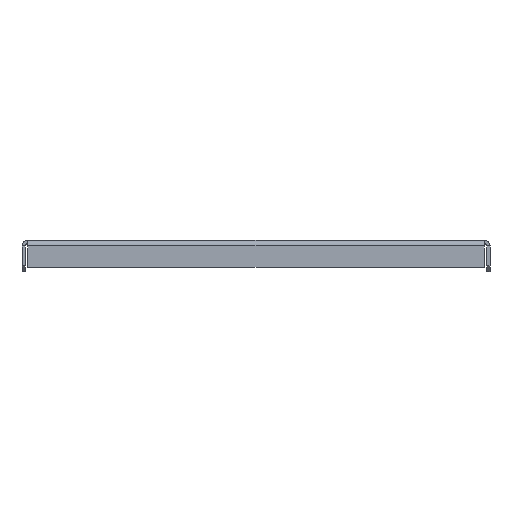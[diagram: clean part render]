
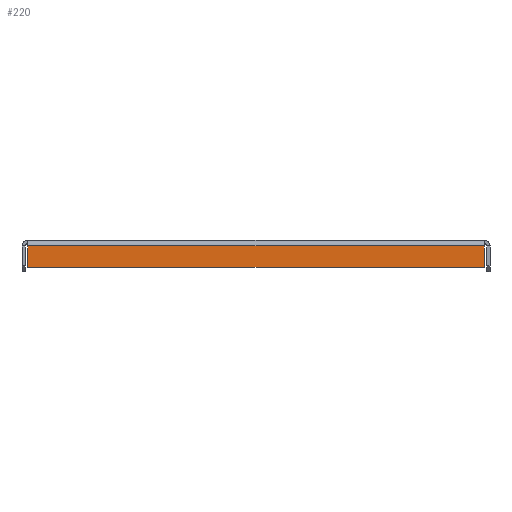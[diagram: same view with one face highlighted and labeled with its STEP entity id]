
A CAD part, front view. The second image highlights one B-rep face of the part: STEP entity #220.
In plain terms, the highlighted planar face has unit normal (0, -1, 0).
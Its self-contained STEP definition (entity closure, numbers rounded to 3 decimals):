
#220=ADVANCED_FACE('',(#2476),#2478,.T.);
#2476=FACE_BOUND('',#2477,.T.);
#2477=EDGE_LOOP('',(#4461,#4462,#4463,#4464));
#2478=PLANE('',#2479);
#2479=AXIS2_PLACEMENT_3D('',#2480,#2481,#2482);
#2480=CARTESIAN_POINT('',(0.,-98.5,0.));
#2481=DIRECTION('',(0.,-1.,0.));
#2482=DIRECTION('',(0.,0.,-1.));
#4461=ORIENTED_EDGE('',*,*,#5667,.F.);
#4462=ORIENTED_EDGE('',*,*,#5661,.T.);
#4463=ORIENTED_EDGE('',*,*,#5663,.F.);
#4464=ORIENTED_EDGE('',*,*,#5669,.F.);
#5661=EDGE_CURVE('',#6956,#6963,#6967,.T.);
#5663=EDGE_CURVE('',#6969,#6963,#6970,.T.);
#5667=EDGE_CURVE('',#6956,#6976,#6977,.T.);
#5669=EDGE_CURVE('',#6976,#6969,#6979,.T.);
#6956=VERTEX_POINT('',#9710);
#6963=VERTEX_POINT('',#9730);
#6967=LINE('',#9741,#9742);
#6969=VERTEX_POINT('',#9747);
#6970=LINE('',#9748,#9749);
#6976=VERTEX_POINT('',#9762);
#6977=LINE('',#9763,#9764);
#6979=LINE('',#9769,#9770);
#9710=CARTESIAN_POINT('',(139.1,-98.5,-3.4));
#9730=CARTESIAN_POINT('',(-139.1,-98.5,-3.4));
#9741=CARTESIAN_POINT('',(139.1,-98.5,-3.4));
#9742=VECTOR('',#9743,1.);
#9743=DIRECTION('',(-1.,0.,0.));
#9747=CARTESIAN_POINT('',(-139.1,-98.5,-16.4));
#9748=CARTESIAN_POINT('',(-139.1,-98.5,-16.4));
#9749=VECTOR('',#9750,1.);
#9750=DIRECTION('',(0.,0.,1.));
#9762=CARTESIAN_POINT('',(139.1,-98.5,-16.4));
#9763=CARTESIAN_POINT('',(139.1,-98.5,-3.4));
#9764=VECTOR('',#9765,1.);
#9765=DIRECTION('',(0.,0.,-1.));
#9769=CARTESIAN_POINT('',(139.1,-98.5,-16.4));
#9770=VECTOR('',#9771,1.);
#9771=DIRECTION('',(-1.,0.,0.));
